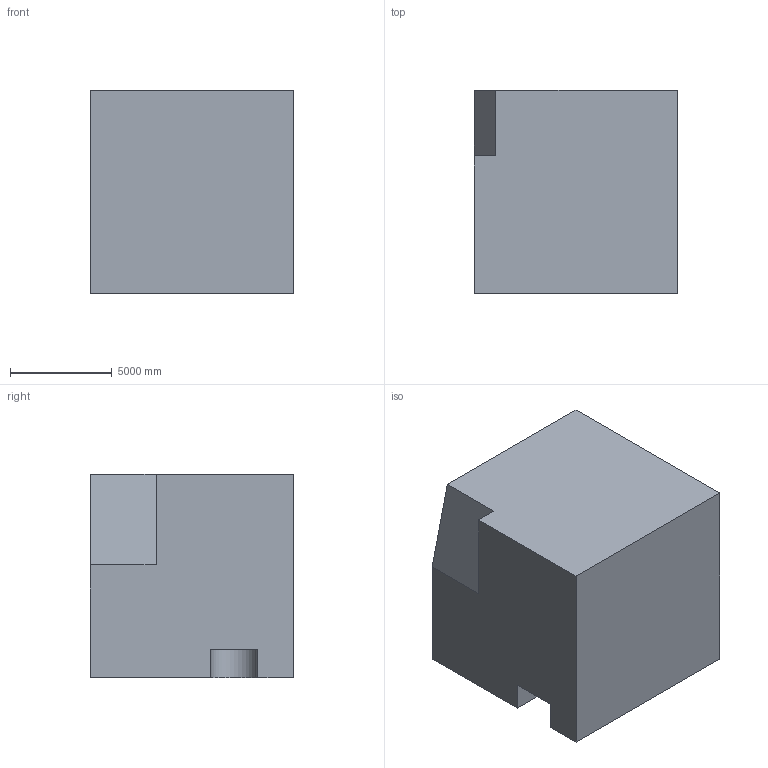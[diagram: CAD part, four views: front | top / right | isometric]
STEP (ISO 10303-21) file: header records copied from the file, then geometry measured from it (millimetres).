
FILE_DESCRIPTION (( 'STEP AP203' ), '1' );
FILE_NAME ('189.STEP', '2022-07-28T13:51:13', ( 'user' ), ( '' ), 'SwSTEP 2.0', 'SolidWorks 2021', '' );
FILE_SCHEMA (( 'CONFIG_CONTROL_DESIGN' ));
Length unit declared in the file: centimetre
Products named in the file (1): 189
Bounding box: 10000 x 10000 x 10000 mm (x, y, z)
Volume: 981818967052.1 mm3; surface area: 605506492.7 mm2
Topology: 1 solids, 1 shells, 12 faces, 30 edges, 20 vertices
Faces by surface type: plane 11, cylinder 1
Entity records: 433 total; most frequent: CARTESIAN_POINT 63, ORIENTED_EDGE 60, DIRECTION 58, EDGE_CURVE 30, VECTOR 28, LINE 28, VERTEX_POINT 20, AXIS2_PLACEMENT_3D 15
